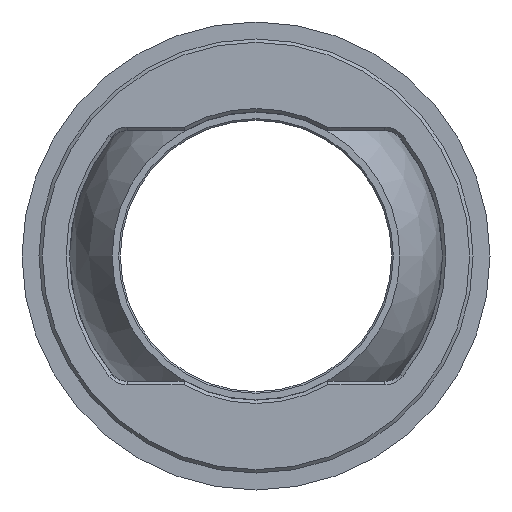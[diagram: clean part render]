
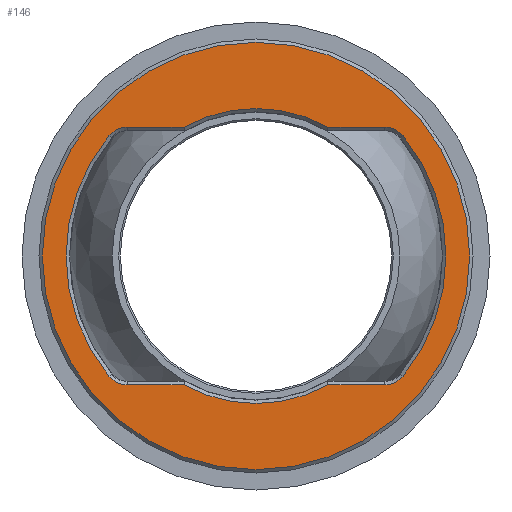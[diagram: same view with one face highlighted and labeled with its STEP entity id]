
A CAD part, front view. The second image highlights one B-rep face of the part: STEP entity #146.
In plain terms, the highlighted planar face has unit normal (0, -1, 0).
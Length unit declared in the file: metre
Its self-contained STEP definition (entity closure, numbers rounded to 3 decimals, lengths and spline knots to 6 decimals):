
#146=ADVANCED_FACE('',(#331,#332),#333,.F.);
#331=FACE_OUTER_BOUND('',#594,.T.);
#332=FACE_BOUND('',#595,.T.);
#333=PLANE('',#596);
#594=EDGE_LOOP('',(#875));
#595=EDGE_LOOP('',(#876,#877,#878,#879,#880,#881,#882,#883,#884,#885,#886,#887));
#596=AXIS2_PLACEMENT_3D('',#888,#889,#890);
#875=ORIENTED_EDGE('',*,*,#1289,.F.);
#876=ORIENTED_EDGE('',*,*,#1290,.T.);
#877=ORIENTED_EDGE('',*,*,#1291,.T.);
#878=ORIENTED_EDGE('',*,*,#1251,.T.);
#879=ORIENTED_EDGE('',*,*,#1292,.T.);
#880=ORIENTED_EDGE('',*,*,#1293,.T.);
#881=ORIENTED_EDGE('',*,*,#1294,.T.);
#882=ORIENTED_EDGE('',*,*,#1259,.T.);
#883=ORIENTED_EDGE('',*,*,#1295,.T.);
#884=ORIENTED_EDGE('',*,*,#1296,.T.);
#885=ORIENTED_EDGE('',*,*,#1297,.T.);
#886=ORIENTED_EDGE('',*,*,#1273,.T.);
#887=ORIENTED_EDGE('',*,*,#1298,.T.);
#888=CARTESIAN_POINT('',(-0.070422,0.002861,0.0));
#889=DIRECTION('',(0.0,1.0,0.0));
#890=DIRECTION('',(0.0,0.0,1.0));
#1251=EDGE_CURVE('',#1436,#1437,#1438,.T.);
#1259=EDGE_CURVE('',#1445,#1450,#1452,.T.);
#1273=EDGE_CURVE('',#1469,#1474,#1476,.T.);
#1289=EDGE_CURVE('',#1498,#1498,#1499,.T.);
#1290=EDGE_CURVE('',#1500,#1501,#1502,.T.);
#1291=EDGE_CURVE('',#1501,#1436,#1503,.T.);
#1292=EDGE_CURVE('',#1437,#1504,#1505,.T.);
#1293=EDGE_CURVE('',#1504,#1506,#1507,.T.);
#1294=EDGE_CURVE('',#1506,#1445,#1508,.T.);
#1295=EDGE_CURVE('',#1450,#1509,#1510,.T.);
#1296=EDGE_CURVE('',#1509,#1511,#1512,.T.);
#1297=EDGE_CURVE('',#1511,#1469,#1513,.T.);
#1298=EDGE_CURVE('',#1474,#1500,#1514,.T.);
#1436=VERTEX_POINT('',#1697);
#1437=VERTEX_POINT('',#1698);
#1438=CIRCLE('',#1699,0.0435);
#1445=VERTEX_POINT('',#1712);
#1450=VERTEX_POINT('',#1718);
#1452=CIRCLE('',#1721,0.007);
#1469=VERTEX_POINT('',#1801);
#1474=VERTEX_POINT('',#1807);
#1476=CIRCLE('',#1810,0.007);
#1498=VERTEX_POINT('',#1834);
#1499=CIRCLE('',#1835,0.063);
#1500=VERTEX_POINT('',#1836);
#1501=VERTEX_POINT('',#1837);
#1502=CIRCLE('',#1838,0.007);
#1503=LINE('',#1839,#1840);
#1504=VERTEX_POINT('',#1841);
#1505=LINE('',#1842,#1843);
#1506=VERTEX_POINT('',#1844);
#1507=CIRCLE('',#1845,0.007);
#1508=CIRCLE('',#1846,0.056);
#1509=VERTEX_POINT('',#1847);
#1510=LINE('',#1848,#1849);
#1511=VERTEX_POINT('',#1850);
#1512=CIRCLE('',#1851,0.0435);
#1513=LINE('',#1852,#1853);
#1514=CIRCLE('',#1854,0.056);
#1697=CARTESIAN_POINT('',(-0.048094,0.002861,0.038));
#1698=CARTESIAN_POINT('',(-0.00575,0.002861,0.038));
#1699=AXIS2_PLACEMENT_3D('',#2175,#2176,#2177);
#1712=CARTESIAN_POINT('',(0.016446,0.002861,-0.035429));
#1718=CARTESIAN_POINT('',(0.011025,0.002861,-0.038));
#1721=AXIS2_PLACEMENT_3D('',#2186,#2187,#2188);
#1801=CARTESIAN_POINT('',(-0.06487,0.002861,-0.038));
#1807=CARTESIAN_POINT('',(-0.070291,0.002861,-0.035429));
#1810=AXIS2_PLACEMENT_3D('',#2209,#2210,#2211);
#1834=CARTESIAN_POINT('',(-0.026922,0.002861,0.063));
#1835=AXIS2_PLACEMENT_3D('',#2232,#2233,#2234);
#1836=CARTESIAN_POINT('',(-0.070291,0.002861,0.035429));
#1837=CARTESIAN_POINT('',(-0.06487,0.002861,0.038));
#1838=AXIS2_PLACEMENT_3D('',#2235,#2236,#2237);
#1839=CARTESIAN_POINT('',(-0.049797,0.002861,0.038));
#1840=VECTOR('',#2238,1.0);
#1841=CARTESIAN_POINT('',(0.011025,0.002861,0.038));
#1842=CARTESIAN_POINT('',(0.011025,0.002861,0.038));
#1843=VECTOR('',#2239,1.0);
#1844=CARTESIAN_POINT('',(0.016446,0.002861,0.035429));
#1845=AXIS2_PLACEMENT_3D('',#2240,#2241,#2242);
#1846=AXIS2_PLACEMENT_3D('',#2243,#2244,#2245);
#1847=CARTESIAN_POINT('',(-0.00575,0.002861,-0.038));
#1848=CARTESIAN_POINT('',(-0.004048,0.002861,-0.038));
#1849=VECTOR('',#2246,1.0);
#1850=CARTESIAN_POINT('',(-0.048094,0.002861,-0.038));
#1851=AXIS2_PLACEMENT_3D('',#2247,#2248,#2249);
#1852=CARTESIAN_POINT('',(-0.06487,0.002861,-0.038));
#1853=VECTOR('',#2250,1.0);
#1854=AXIS2_PLACEMENT_3D('',#2251,#2252,#2253);
#2175=CARTESIAN_POINT('',(-0.026922,0.002861,0.0));
#2176=DIRECTION('',(0.0,1.0,0.0));
#2177=DIRECTION('',(0.0,0.0,1.0));
#2186=CARTESIAN_POINT('',(0.011025,0.002861,-0.031));
#2187=DIRECTION('',(0.0,1.0,0.0));
#2188=DIRECTION('',(0.0,0.0,1.0));
#2209=CARTESIAN_POINT('',(-0.06487,0.002861,-0.031));
#2210=DIRECTION('',(0.0,1.0,0.0));
#2211=DIRECTION('',(0.0,0.0,1.0));
#2232=CARTESIAN_POINT('',(-0.026922,0.002861,0.0));
#2233=DIRECTION('',(0.0,1.0,0.0));
#2234=DIRECTION('',(0.0,0.0,1.0));
#2235=CARTESIAN_POINT('',(-0.06487,0.002861,0.031));
#2236=DIRECTION('',(0.0,1.0,0.0));
#2237=DIRECTION('',(0.0,0.0,1.0));
#2238=DIRECTION('',(1.0,0.0,0.0));
#2239=DIRECTION('',(1.0,0.0,0.0));
#2240=CARTESIAN_POINT('',(0.011025,0.002861,0.031));
#2241=DIRECTION('',(0.0,1.0,0.0));
#2242=DIRECTION('',(0.0,0.0,1.0));
#2243=CARTESIAN_POINT('',(-0.026922,0.002861,0.));
#2244=DIRECTION('',(0.0,1.0,0.0));
#2245=DIRECTION('',(0.0,0.0,1.0));
#2246=DIRECTION('',(-1.0,0.0,0.));
#2247=CARTESIAN_POINT('',(-0.026922,0.002861,0.0));
#2248=DIRECTION('',(0.0,1.0,0.0));
#2249=DIRECTION('',(0.0,0.0,1.0));
#2250=DIRECTION('',(-1.0,0.0,0.));
#2251=CARTESIAN_POINT('',(-0.026922,0.002861,0.));
#2252=DIRECTION('',(0.0,1.0,0.0));
#2253=DIRECTION('',(0.0,0.0,1.0));
